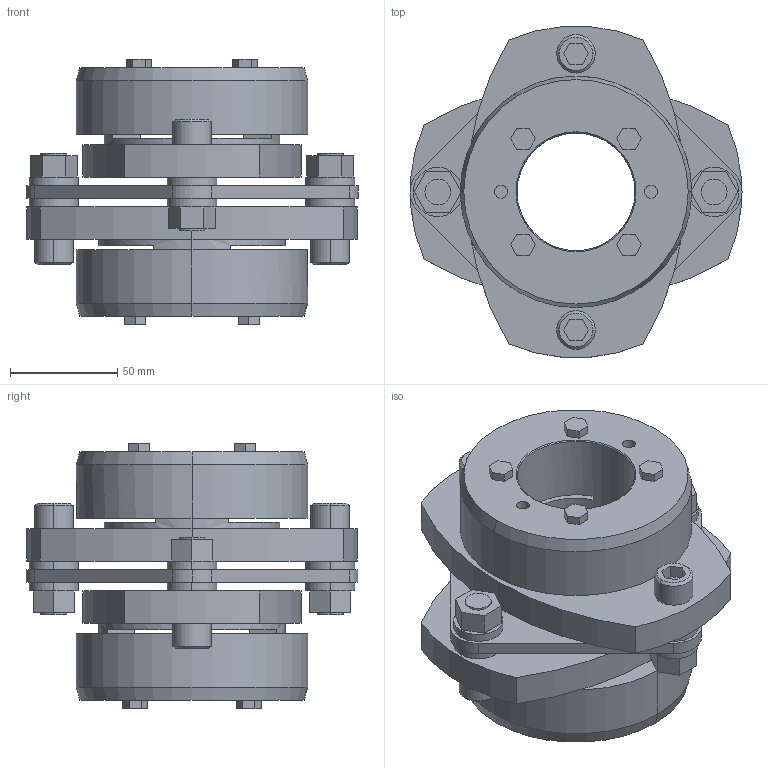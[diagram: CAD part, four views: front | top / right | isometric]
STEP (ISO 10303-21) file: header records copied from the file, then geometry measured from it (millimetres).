
FILE_DESCRIPTION((''),'2;1');
FILE_NAME('LCS-155T7-55×60.stp','2011-09-08T14:35:38',(''),(''),'AutoCAD STEP 2000i','AutoCAD 2000i',', , ');
FILE_SCHEMA(('CONFIG_CONTROL_DESIGN'));
Length unit declared in the file: millimetre
Products named in the file (10): LCS-155T7-55×60; 忣兜1; LC155T7-T060; LC155T7-T055-1; LC155T7-T055; LC155T7-T050-1; LC155T7-T050; LC155T7-T045-1; LC155T7-T045; LCS155-ITA
Assembly tree (9 placements, depth 2):
  LCS-155T7-55×60
    忣兜1
    LC155T7-T060
    LC155T7-T055-1
    LC155T7-T055
    LC155T7-T050-1
    LC155T7-T050
    LC155T7-T045-1
    LC155T7-T045
    LCS155-ITA
Bounding box: 155 x 154.9 x 124 mm (x, y, z)
Volume: 845808 mm3; surface area: 149843.9 mm2
Topology: 1 solids, 1 shells, 246 faces, 606 edges, 398 vertices
Faces by surface type: plane 146, cylinder 80, cone 20
Entity records: 7541 total; most frequent: DIRECTION 1316, CARTESIAN_POINT 1260, ORIENTED_EDGE 1212, EDGE_CURVE 606, AXIS2_PLACEMENT_3D 454, VECTOR 408, LINE 408, VERTEX_POINT 398
